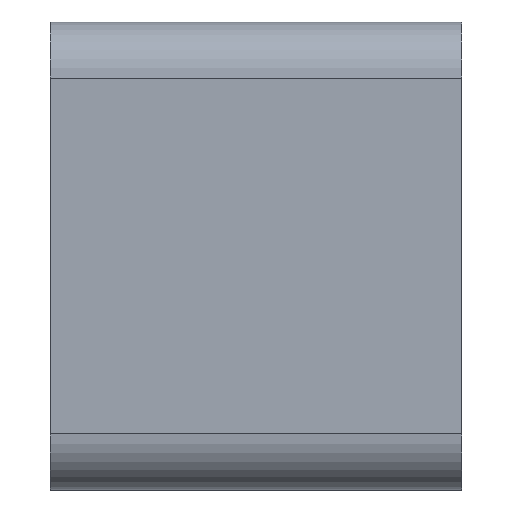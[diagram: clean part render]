
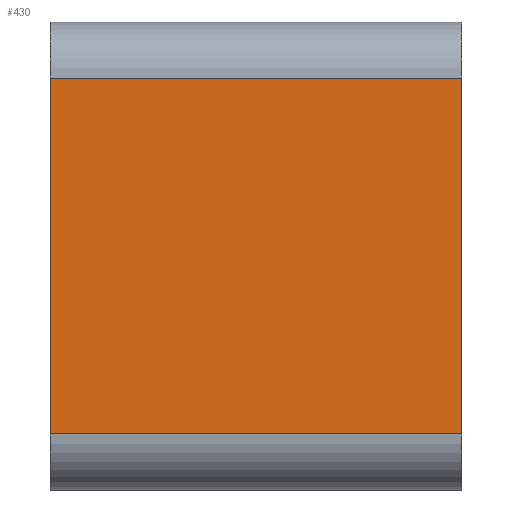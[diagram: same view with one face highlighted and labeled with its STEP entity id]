
A CAD part, front view. The second image highlights one B-rep face of the part: STEP entity #430.
In plain terms, the highlighted planar face has unit normal (0, -1, 0).
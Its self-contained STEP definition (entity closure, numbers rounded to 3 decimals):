
#12 = LINE ( 'NONE', #338, #896 ) ;
#47 = DIRECTION ( 'NONE',  ( 0., 0., 1. ) ) ;
#49 = ORIENTED_EDGE ( 'NONE', *, *, #750, .T. ) ;
#123 = LINE ( 'NONE', #198, #144 ) ;
#136 = DIRECTION ( 'NONE',  ( -1., 0., 0. ) ) ;
#144 = VECTOR ( 'NONE', #1010, 1000. ) ;
#198 = CARTESIAN_POINT ( 'NONE',  ( 11., -25., 20.5 ) ) ;
#210 = DIRECTION ( 'NONE',  ( 0., 1., 0. ) ) ;
#259 = DIRECTION ( 'NONE',  ( 0., 0., 1. ) ) ;
#338 = CARTESIAN_POINT ( 'NONE',  ( 11., -25., 0. ) ) ;
#368 = CARTESIAN_POINT ( 'NONE',  ( -11., -25., 1.5 ) ) ;
#385 = ORIENTED_EDGE ( 'NONE', *, *, #455, .F. ) ;
#389 = VERTEX_POINT ( 'NONE', #918 ) ;
#430 = ADVANCED_FACE ( 'NONE', ( #676 ), #447, .F. ) ;
#431 = LINE ( 'NONE', #990, #593 ) ;
#447 = PLANE ( 'NONE',  #481 ) ;
#454 = VERTEX_POINT ( 'NONE', #368 ) ;
#455 = EDGE_CURVE ( 'NONE', #389, #454, #853, .T. ) ;
#481 = AXIS2_PLACEMENT_3D ( 'NONE', #1006, #210, #47 ) ;
#488 = DIRECTION ( 'NONE',  ( 0., 0., -1. ) ) ;
#560 = VERTEX_POINT ( 'NONE', #714 ) ;
#571 = VECTOR ( 'NONE', #136, 1000. ) ;
#593 = VECTOR ( 'NONE', #488, 1000. ) ;
#603 = CARTESIAN_POINT ( 'NONE',  ( -11., -25., 1.5 ) ) ;
#641 = EDGE_CURVE ( 'NONE', #560, #454, #431, .T. ) ;
#655 = CARTESIAN_POINT ( 'NONE',  ( 11., -25., 20.5 ) ) ;
#676 = FACE_OUTER_BOUND ( 'NONE', #1041, .T. ) ;
#706 = ORIENTED_EDGE ( 'NONE', *, *, #866, .T. ) ;
#711 = VERTEX_POINT ( 'NONE', #655 ) ;
#714 = CARTESIAN_POINT ( 'NONE',  ( -11., -25., 20.5 ) ) ;
#750 = EDGE_CURVE ( 'NONE', #389, #711, #12, .T. ) ;
#853 = LINE ( 'NONE', #603, #571 ) ;
#866 = EDGE_CURVE ( 'NONE', #711, #560, #123, .T. ) ;
#896 = VECTOR ( 'NONE', #259, 1000. ) ;
#918 = CARTESIAN_POINT ( 'NONE',  ( 11., -25., 1.5 ) ) ;
#990 = CARTESIAN_POINT ( 'NONE',  ( -11., -25., 0. ) ) ;
#996 = ORIENTED_EDGE ( 'NONE', *, *, #641, .T. ) ;
#1006 = CARTESIAN_POINT ( 'NONE',  ( 0., -25., 0. ) ) ;
#1010 = DIRECTION ( 'NONE',  ( -1., 0., 0. ) ) ;
#1041 = EDGE_LOOP ( 'NONE', ( #706, #996, #385, #49 ) ) ;
